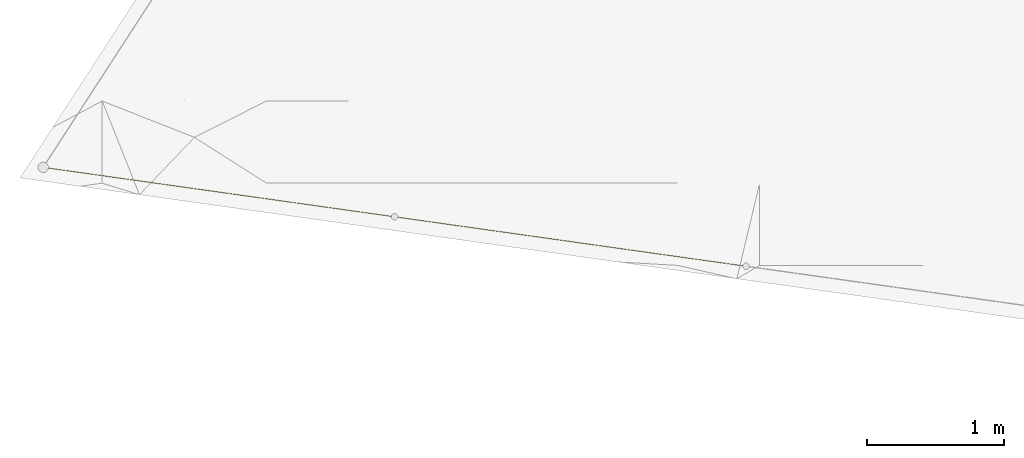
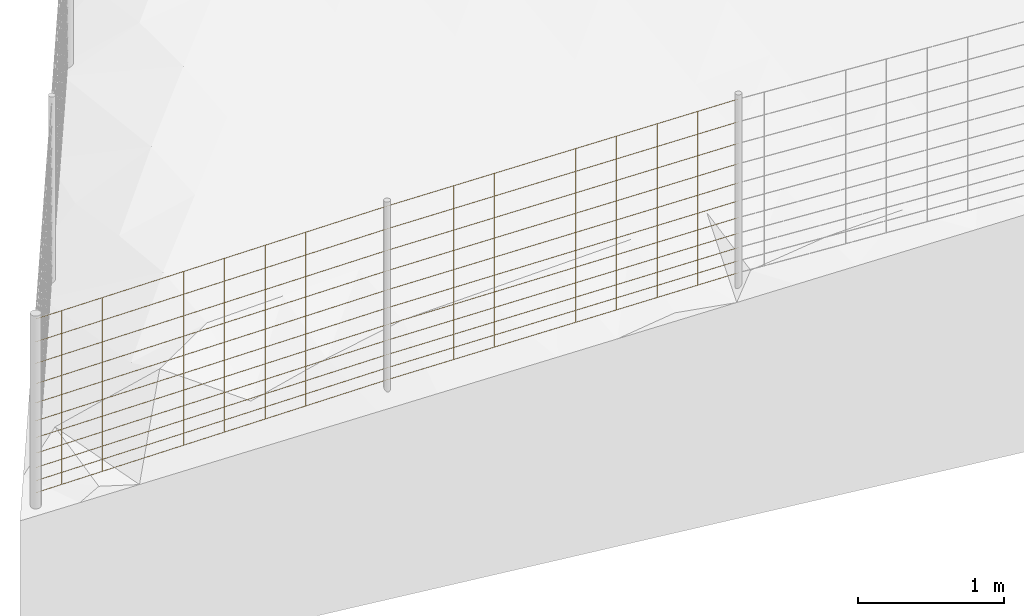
# Not in any storey, part 24 of 72: 2 railings.
"""IFC4 model written with IfcOpenShell, lengths in metres."""

import ifcopenshell
import ifcopenshell.guid

model = None  # the IFC model being written
_history = None  # IfcOwnerHistory: only IFC2X3 demands one
_inside = {}  # id of a spatial element -> (the spatial element, [elements in it])
_under = {}  # id of a project, library or spatial element -> (it, [spatial elements below it])
_declared = {}  # id of a project -> (the project, [libraries it declares])
_typed = {}  # id of a type object -> (the type object, [elements of that type])
_made_of = {}  # id of a material, layer set ... -> (it, [elements and type objects made of it])


def new_model(schema):
    """Start an empty IFC model of exactly this schema.

    Asked for "IFC4X3", IfcOpenShell would pick the latest addendum, in which some entities
    have other attributes; the version numbers below select the first issue.
    IFC2X3 requires an IfcOwnerHistory on every rooted entity: one is made here for all.
    """
    global model, _history
    if schema == "IFC4X3":
        model = ifcopenshell.file(schema_version=(4, 3, 0, 0))
    else:
        model = ifcopenshell.file(schema=schema)
    _inside.clear()
    _under.clear()
    _declared.clear()
    _typed.clear()
    _made_of.clear()
    _history = None
    if model.schema == "IFC2X3":
        org = make("IfcOrganization", Name="unknown")
        user = make(
            "IfcPersonAndOrganization",
            ThePerson=make("IfcPerson", FamilyName="unknown"),
            TheOrganization=org,
        )
        app = make(
            "IfcApplication",
            ApplicationDeveloper=org,
            Version="unknown",
            ApplicationFullName="unknown",
            ApplicationIdentifier="unknown",
        )
        _history = make(
            "IfcOwnerHistory",
            OwningUser=user,
            OwningApplication=app,
            ChangeAction="ADDED",
            CreationDate=0,
        )
    return model


def make(cls, **values):
    """One entity of the class cls with the attributes given. An attribute that is None is left unset."""
    return model.create_entity(
        cls, **{name: value for name, value in values.items() if value is not None}
    )


def rooted(cls, **values):
    """An entity with a GlobalId (a new one), such as an element, a storey or a relation."""
    return make(cls, GlobalId=ifcopenshell.guid.new(), OwnerHistory=_history, **values)


def si_unit(unit_type, name, prefix=None):
    """IfcSIUnit, for example si_unit("LENGTHUNIT", "METRE", prefix="MILLI")."""
    return make("IfcSIUnit", UnitType=unit_type, Prefix=prefix, Name=name)


def assignment(units):
    """IfcUnitAssignment: the units of a project."""
    return None if units is None else make("IfcUnitAssignment", Units=units)


def point(xyz):
    """IfcCartesianPoint."""
    return None if xyz is None else make("IfcCartesianPoint", Coordinates=xyz)


def direction(xyz):
    """IfcDirection."""
    return None if xyz is None else make("IfcDirection", DirectionRatios=xyz)


def frame(location, z_axis=None, x_axis=None):
    """IfcAxis2Placement3D, a coordinate frame: its origin and axes. An axis left out is left unset."""
    return make(
        "IfcAxis2Placement3D",
        Location=point(location),
        Axis=direction(z_axis),
        RefDirection=direction(x_axis),
    )


def origin_with_axes():
    """The frame at (0, 0, 0) with the z axis (0, 0, 1) and the x axis (1, 0, 0) written out."""
    return frame((0.0, 0.0, 0.0), z_axis=(0.0, 0.0, 1.0), x_axis=(1.0, 0.0, 0.0))


def place(relative_to, where):
    """IfcLocalPlacement: puts the frame where relative to a parent placement (None: the world)."""
    return make(
        "IfcLocalPlacement", PlacementRelTo=relative_to, RelativePlacement=where
    )


def context(
    kind, dimensions, precision=None, world=None, true_north=None, identifier=None
):
    """IfcGeometricRepresentationContext, for example the 3D "Model" context."""
    return make(
        "IfcGeometricRepresentationContext",
        ContextIdentifier=identifier,
        ContextType=kind,
        CoordinateSpaceDimension=dimensions,
        Precision=precision,
        WorldCoordinateSystem=world,
        TrueNorth=true_north,
    )


def subcontext(parent, identifier, kind, view, scale=None):
    """IfcGeometricRepresentationSubContext, for example "Body" below "Model"."""
    return make(
        "IfcGeometricRepresentationSubContext",
        ContextIdentifier=identifier,
        ContextType=kind,
        ParentContext=parent,
        TargetScale=scale,
        TargetView=view,
    )


def project(units=None, contexts=None):
    """IfcProject with its units and contexts."""
    return rooted(
        "IfcProject",
        Name="project",
        RepresentationContexts=contexts,
        UnitsInContext=assignment(units),
    )


def spatial(cls, under=None, at=None, **own):
    """A site, building, storey or space (cls), placed at a placement, below another one or the project."""
    s = rooted(cls, ObjectPlacement=at, **own)
    if under is not None:
        _under.setdefault(under.id(), (under, []))[1].append(s)
    return s


def point_list(points):
    """IfcCartesianPointList2D or 3D."""
    cls = (
        "IfcCartesianPointList2D" if len(points[0]) == 2 else "IfcCartesianPointList3D"
    )
    return make(cls, CoordList=points)


def polygons(points, faces, closed=None, point_numbers=None):
    """IfcPolygonalFaceSet: a face is its outer loop, then its inner loops; points numbered from 1."""
    made = []
    for loops in faces:
        if len(loops) == 1:
            made.append(make("IfcIndexedPolygonalFace", CoordIndex=loops[0]))
        else:
            made.append(
                make(
                    "IfcIndexedPolygonalFaceWithVoids",
                    CoordIndex=loops[0],
                    InnerCoordIndices=loops[1:],
                )
            )
    return make(
        "IfcPolygonalFaceSet",
        Coordinates=point_list(points),
        Closed=closed,
        Faces=made,
        PnIndex=point_numbers,
    )


def shape(context_of_items, identifier, shape_type, items):
    """IfcShapeRepresentation: the items that make up one representation, for example the "Body"."""
    return make(
        "IfcShapeRepresentation",
        ContextOfItems=context_of_items,
        RepresentationIdentifier=identifier,
        RepresentationType=shape_type,
        Items=items,
    )


def material(Name=None, Category=None):
    """IfcMaterial."""
    return make("IfcMaterial", Name=Name, Category=Category)


def made_of(thing, what):
    """Note that an element or type object is made of a material, layer set ...; save() writes the relation."""
    if what is not None:
        _made_of.setdefault(what.id(), (what, []))[1].append(thing)
    return thing


def element(
    cls,
    number,
    at=None,
    inside=None,
    cuts=None,
    type_object=None,
    material=None,
    context=None,
    identifier="Body",
    shape_type=None,
    held_by="IfcProductDefinitionShape",
    body=None,
    shapes=None,
    **own,
):
    """One element of the class cls, such as IfcWall. Its Tag is "e" and its number.

    at: its placement. inside: the storey or other place that contains it. cuts: it is an
    opening in that element (IfcRelVoidsElement). A single representation is given by context,
    identifier, shape_type and body (its items); several are given by shapes. held_by: the class
    of the entity that holds the representations. save() writes the other relations.
    """
    e = rooted(cls, Tag="e%d" % number, ObjectPlacement=at, **own)
    if body is not None:
        shapes = [shape(context, identifier, shape_type, body)]
    if shapes is not None:
        e.Representation = make(held_by, Representations=shapes)
    if inside is not None:
        _inside.setdefault(inside.id(), (inside, []))[1].append(e)
    if cuts is not None:
        rooted(
            "IfcRelVoidsElement", RelatingBuildingElement=cuts, RelatedOpeningElement=e
        )
    if type_object is not None:
        _typed.setdefault(type_object.id(), (type_object, []))[1].append(e)
    return made_of(e, material)


def aggregate(whole, parts):
    """IfcRelAggregates: a whole, such as a stair, and the parts it consists of."""
    return rooted("IfcRelAggregates", RelatingObject=whole, RelatedObjects=parts)


def save(model, path):
    """Write the relations noted so far, then the file.

    IfcRelAggregates (storeys below a building ...), IfcRelContainedInSpatialStructure (elements
    in a storey), IfcRelDefinesByType, IfcRelAssociatesMaterial and IfcRelDeclares: one each for
    every whole, place, type object, material and project.
    """
    for whole, parts in _under.values():
        aggregate(whole, parts)
    for where, things in _inside.values():
        rooted(
            "IfcRelContainedInSpatialStructure",
            RelatedElements=things,
            RelatingStructure=where,
        )
    for kind, things in _typed.values():
        rooted("IfcRelDefinesByType", RelatedObjects=things, RelatingType=kind)
    for what, things in _made_of.values():
        rooted("IfcRelAssociatesMaterial", RelatedObjects=things, RelatingMaterial=what)
    for by, libraries in _declared.values():
        rooted("IfcRelDeclares", RelatingContext=by, RelatedDefinitions=libraries)
    model.write(path)


model = new_model("IFC4")

# Units and contexts
model_context = context("Model", 3, precision=1e-05, world=origin_with_axes(), true_north=direction((0.0, 1.0)))
body_context = subcontext(model_context, "Body", "Model", "MODEL_VIEW")
ifc_project = project(units=[si_unit("AREAUNIT", "SQUARE_METRE"), si_unit("VOLUMEUNIT", "CUBIC_METRE"), si_unit("LENGTHUNIT", "METRE")], contexts=[model_context])

# Site
site_placement = place(None, origin_with_axes())
site = spatial("IfcSite", under=ifc_project, at=site_placement, Name="Lares · Rua das Mercês · artigo 4771")

# Railings
ifc_material = material(Name="Aço galvanizado / Stahl verzinkt", Category="steel")
railing_1_placement = place(site_placement, frame((0.0, 0.0, 0.0), z_axis=(0.0, 0.0, 1.0), x_axis=(1.0, -1.03767253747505e-17, 0.0)))
element("IfcRailing", 1, at=railing_1_placement, inside=site, material=ifc_material, Name="Vedação · rede ovelheira 1.039", ObjectType="SHEEP_WIRE_FENCE", PredefinedType="USERDEFINED", context=body_context, shape_type="Tessellation", body=[
    polygons([(-6.80593960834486, 4.23556345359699, 10.9744345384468), (-6.806026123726, 4.23406084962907, 10.972939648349), (-6.80635764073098, 4.23259272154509, 10.9744345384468), (-6.80627112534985, 4.23409532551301, 10.9759294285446), (-9.37135440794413, 4.59656082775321, 10.7600453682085), (-9.37144092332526, 4.59505822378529, 10.7585504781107), (-9.37177244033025, 4.59359009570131, 10.7600453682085), (-9.37168592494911, 4.59509269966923, 10.7615402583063), (-6.80593960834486, 4.23556345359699, 11.0744345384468), (-6.806026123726, 4.23406084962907, 11.072939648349), (-6.80635764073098, 4.23259272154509, 11.0744345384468), (-6.80627112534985, 4.23409532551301, 11.0759294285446), (-9.37135440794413, 4.59656082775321, 10.8600453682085), (-9.37144092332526, 4.59505822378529, 10.8585504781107), (-9.37177244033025, 4.59359009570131, 10.8600453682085), (-9.37168592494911, 4.59509269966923, 10.8615402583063), (-6.80593960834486, 4.23556345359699, 11.1844345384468), (-6.806026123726, 4.23406084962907, 11.182939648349), (-6.80635764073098, 4.23259272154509, 11.1844345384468), (-6.80627112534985, 4.23409532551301, 11.1859294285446), (-9.37135440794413, 4.59656082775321, 10.9700453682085), (-9.37144092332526, 4.59505822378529, 10.9685504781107), (-9.37177244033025, 4.59359009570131, 10.9700453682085), (-9.37168592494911, 4.59509269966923, 10.9715402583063), (-6.80593960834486, 4.23556345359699, 11.3044345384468), (-6.806026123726, 4.23406084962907, 11.302939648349), (-6.80635764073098, 4.23259272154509, 11.3044345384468), (-6.80627112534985, 4.23409532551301, 11.3059294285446), (-9.37135440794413, 4.59656082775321, 11.0900453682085), (-9.37144092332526, 4.59505822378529, 11.0885504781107), (-9.37177244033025, 4.59359009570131, 11.0900453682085), (-9.37168592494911, 4.59509269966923, 11.0915402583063), (-6.80593960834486, 4.23556345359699, 11.4344345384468), (-6.806026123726, 4.23406084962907, 11.432939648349), (-6.80635764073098, 4.23259272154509, 11.4344345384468), (-6.80627112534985, 4.23409532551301, 11.4359294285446), (-9.37135440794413, 4.59656082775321, 11.2200453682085), (-9.37144092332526, 4.59505822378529, 11.2185504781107), (-9.37177244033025, 4.59359009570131, 11.2200453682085), (-9.37168592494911, 4.59509269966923, 11.2215402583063), (-6.80593960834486, 4.23556345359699, 11.5744345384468), (-6.806026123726, 4.23406084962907, 11.572939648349), (-6.80635764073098, 4.23259272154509, 11.5744345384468), (-6.80627112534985, 4.23409532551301, 11.5759294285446), (-9.37135440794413, 4.59656082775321, 11.3600453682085), (-9.37144092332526, 4.59505822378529, 11.3585504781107), (-9.37177244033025, 4.59359009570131, 11.3600453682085), (-9.37168592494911, 4.59509269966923, 11.3615402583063), (-6.80593960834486, 4.23556345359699, 11.7244345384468), (-6.806026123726, 4.23406084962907, 11.722939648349), (-6.80635764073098, 4.23259272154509, 11.7244345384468), (-6.80627112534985, 4.23409532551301, 11.7259294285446), (-9.37135440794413, 4.59656082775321, 11.5100453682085), (-9.37144092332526, 4.59505822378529, 11.5085504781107), (-9.37177244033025, 4.59359009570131, 11.5100453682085), (-9.37168592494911, 4.59509269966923, 11.5115402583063), (-6.80593960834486, 4.23556345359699, 11.8844345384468), (-6.806026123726, 4.23406084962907, 11.882939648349), (-6.80635764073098, 4.23259272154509, 11.8844345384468), (-6.80627112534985, 4.23409532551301, 11.8859294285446), (-9.37135440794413, 4.59656082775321, 11.6700453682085), (-9.37144092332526, 4.59505822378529, 11.6685504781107), (-9.37177244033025, 4.59359009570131, 11.6700453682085), (-9.37168592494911, 4.59509269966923, 11.6715402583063), (-6.80593960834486, 4.23556345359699, 12.0544345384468), (-6.806026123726, 4.23406084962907, 12.052939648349), (-6.80635764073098, 4.23259272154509, 12.0544345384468), (-6.80627112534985, 4.23409532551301, 12.0559294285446), (-9.37135440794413, 4.59656082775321, 11.8400453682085), (-9.37144092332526, 4.59505822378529, 11.8385504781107), (-9.37177244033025, 4.59359009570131, 11.8400453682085), (-9.37168592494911, 4.59509269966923, 11.8415402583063), (-6.80593960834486, 4.23556345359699, 12.2344345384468), (-6.806026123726, 4.23406084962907, 12.232939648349), (-6.80635764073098, 4.23259272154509, 12.2344345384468), (-6.80627112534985, 4.23409532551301, 12.2359294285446), (-9.37135440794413, 4.59656082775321, 12.0200453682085), (-9.37144092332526, 4.59505822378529, 12.0185504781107), (-9.37177244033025, 4.59359009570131, 12.0200453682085), (-9.37168592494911, 4.59509269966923, 12.0215402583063), (-6.80593960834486, 4.23556345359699, 12.4244345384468), (-6.806026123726, 4.23406084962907, 12.422939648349), (-6.80635764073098, 4.23259272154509, 12.4244345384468), (-6.80627112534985, 4.23409532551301, 12.4259294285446), (-9.37135440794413, 4.59656082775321, 12.2100453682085), (-9.37144092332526, 4.59505822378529, 12.2085504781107), (-9.37177244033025, 4.59359009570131, 12.2100453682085), (-9.37168592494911, 4.59509269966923, 12.2115402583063), (-7.10322182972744, 4.27738132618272, 10.9496084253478), (-7.10472182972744, 4.27588132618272, 10.9496084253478), (-7.10322182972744, 4.27438132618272, 10.9496084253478), (-7.10172182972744, 4.27588132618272, 10.9496084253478), (-7.10322182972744, 4.27738132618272, 12.3996084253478), (-7.10472182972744, 4.27588132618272, 12.3996084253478), (-7.10322182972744, 4.27438132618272, 12.3996084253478), (-7.10172182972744, 4.27588132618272, 12.3996084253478), (-7.40029503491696, 4.3191845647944, 10.9247823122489), (-7.40179503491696, 4.3176845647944, 10.9247823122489), (-7.40029503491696, 4.3161845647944, 10.9247823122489), (-7.39879503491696, 4.3176845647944, 10.9247823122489), (-7.40029503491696, 4.3191845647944, 12.3747823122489), (-7.40179503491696, 4.3176845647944, 12.3747823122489), (-7.40029503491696, 4.3161845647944, 12.3747823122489), (-7.39879503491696, 4.3176845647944, 12.3747823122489), (-7.69736824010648, 4.36098780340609, 10.8999561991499), (-7.69886824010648, 4.35948780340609, 10.8999561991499), (-7.69736824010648, 4.35798780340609, 10.8999561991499), (-7.69586824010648, 4.35948780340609, 10.8999561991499), (-7.69736824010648, 4.36098780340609, 12.3499561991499), (-7.69886824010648, 4.35948780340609, 12.3499561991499), (-7.69736824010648, 4.35798780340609, 12.3499561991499), (-7.69586824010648, 4.35948780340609, 12.3499561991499), (-7.994441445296, 4.40279104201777, 10.8751300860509), (-7.995941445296, 4.40129104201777, 10.8751300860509), (-7.994441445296, 4.39979104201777, 10.8751300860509), (-7.992941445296, 4.40129104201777, 10.8751300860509), (-7.994441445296, 4.40279104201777, 12.3251300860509), (-7.995941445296, 4.40129104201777, 12.3251300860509), (-7.994441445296, 4.39979104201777, 12.3251300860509), (-7.992941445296, 4.40129104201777, 12.3251300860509), (-8.29151465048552, 4.44459428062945, 10.850303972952), (-8.29301465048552, 4.44309428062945, 10.850303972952), (-8.29151465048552, 4.44159428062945, 10.850303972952), (-8.29001465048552, 4.44309428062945, 10.850303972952), (-8.29151465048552, 4.44459428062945, 12.300303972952), (-8.29301465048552, 4.44309428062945, 12.300303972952), (-8.29151465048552, 4.44159428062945, 12.300303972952), (-8.29001465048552, 4.44309428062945, 12.300303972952), (-8.58858785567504, 4.48639751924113, 10.825477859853), (-8.59008785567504, 4.48489751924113, 10.825477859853), (-8.58858785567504, 4.48339751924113, 10.825477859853), (-8.58708785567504, 4.48489751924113, 10.825477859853), (-8.58858785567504, 4.48639751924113, 12.275477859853), (-8.59008785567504, 4.48489751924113, 12.275477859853), (-8.58858785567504, 4.48339751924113, 12.275477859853), (-8.58708785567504, 4.48489751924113, 12.275477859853), (-8.88566106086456, 4.52820075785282, 10.8006517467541), (-8.88716106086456, 4.52670075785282, 10.8006517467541), (-8.88566106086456, 4.52520075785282, 10.8006517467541), (-8.88416106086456, 4.52670075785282, 10.8006517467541), (-8.88566106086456, 4.52820075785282, 12.2506517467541), (-8.88716106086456, 4.52670075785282, 12.2506517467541), (-8.88566106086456, 4.52520075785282, 12.2506517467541), (-8.88416106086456, 4.52670075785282, 12.2506517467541), (-9.18273426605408, 4.5700039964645, 10.7758256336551), (-9.18423426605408, 4.5685039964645, 10.7758256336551), (-9.18273426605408, 4.5670039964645, 10.7758256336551), (-9.18123426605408, 4.5685039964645, 10.7758256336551), (-9.18273426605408, 4.5700039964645, 12.2258256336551), (-9.18423426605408, 4.5685039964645, 12.2258256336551), (-9.18273426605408, 4.5670039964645, 12.2258256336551), (-9.18123426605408, 4.5685039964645, 12.2258256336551)], [[[4, 3, 2, 1]], [[5, 6, 7, 8]], [[1, 2, 6, 5]], [[2, 3, 7, 6]], [[3, 4, 8, 7]], [[4, 1, 5, 8]], [[12, 11, 10, 9]], [[13, 14, 15, 16]], [[9, 10, 14, 13]], [[10, 11, 15, 14]], [[11, 12, 16, 15]], [[12, 9, 13, 16]], [[20, 19, 18, 17]], [[21, 22, 23, 24]], [[17, 18, 22, 21]], [[18, 19, 23, 22]], [[19, 20, 24, 23]], [[20, 17, 21, 24]], [[28, 27, 26, 25]], [[29, 30, 31, 32]], [[25, 26, 30, 29]], [[26, 27, 31, 30]], [[27, 28, 32, 31]], [[28, 25, 29, 32]], [[36, 35, 34, 33]], [[37, 38, 39, 40]], [[33, 34, 38, 37]], [[34, 35, 39, 38]], [[35, 36, 40, 39]], [[36, 33, 37, 40]], [[44, 43, 42, 41]], [[45, 46, 47, 48]], [[41, 42, 46, 45]], [[42, 43, 47, 46]], [[43, 44, 48, 47]], [[44, 41, 45, 48]], [[52, 51, 50, 49]], [[53, 54, 55, 56]], [[49, 50, 54, 53]], [[50, 51, 55, 54]], [[51, 52, 56, 55]], [[52, 49, 53, 56]], [[60, 59, 58, 57]], [[61, 62, 63, 64]], [[57, 58, 62, 61]], [[58, 59, 63, 62]], [[59, 60, 64, 63]], [[60, 57, 61, 64]], [[68, 67, 66, 65]], [[69, 70, 71, 72]], [[65, 66, 70, 69]], [[66, 67, 71, 70]], [[67, 68, 72, 71]], [[68, 65, 69, 72]], [[76, 75, 74, 73]], [[77, 78, 79, 80]], [[73, 74, 78, 77]], [[74, 75, 79, 78]], [[75, 76, 80, 79]], [[76, 73, 77, 80]], [[84, 83, 82, 81]], [[85, 86, 87, 88]], [[81, 82, 86, 85]], [[82, 83, 87, 86]], [[83, 84, 88, 87]], [[84, 81, 85, 88]], [[92, 91, 90, 89]], [[93, 94, 95, 96]], [[89, 90, 94, 93]], [[90, 91, 95, 94]], [[91, 92, 96, 95]], [[92, 89, 93, 96]], [[100, 99, 98, 97]], [[101, 102, 103, 104]], [[97, 98, 102, 101]], [[98, 99, 103, 102]], [[99, 100, 104, 103]], [[100, 97, 101, 104]], [[108, 107, 106, 105]], [[109, 110, 111, 112]], [[105, 106, 110, 109]], [[106, 107, 111, 110]], [[107, 108, 112, 111]], [[108, 105, 109, 112]], [[116, 115, 114, 113]], [[117, 118, 119, 120]], [[113, 114, 118, 117]], [[114, 115, 119, 118]], [[115, 116, 120, 119]], [[116, 113, 117, 120]], [[124, 123, 122, 121]], [[125, 126, 127, 128]], [[121, 122, 126, 125]], [[122, 123, 127, 126]], [[123, 124, 128, 127]], [[124, 121, 125, 128]], [[132, 131, 130, 129]], [[133, 134, 135, 136]], [[129, 130, 134, 133]], [[130, 131, 135, 134]], [[131, 132, 136, 135]], [[132, 129, 133, 136]], [[140, 139, 138, 137]], [[141, 142, 143, 144]], [[137, 138, 142, 141]], [[138, 139, 143, 142]], [[139, 140, 144, 143]], [[140, 137, 141, 144]], [[148, 147, 146, 145]], [[149, 150, 151, 152]], [[145, 146, 150, 149]], [[146, 147, 151, 150]], [[147, 148, 152, 151]], [[148, 145, 149, 152]]]),
])
railing_2_placement = place(site_placement, frame((0.0, 0.0, 0.0), z_axis=(0.0, 0.0, 1.0), x_axis=(1.0, -1.03767253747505e-17, 0.0)))
element("IfcRailing", 2, at=railing_2_placement, inside=site, material=ifc_material, Name="Vedação · rede ovelheira 1.040", ObjectType="SHEEP_WIRE_FENCE", PredefinedType="USERDEFINED", context=body_context, shape_type="Tessellation", body=[
    polygons([(-9.37135440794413, 4.59656082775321, 10.7600453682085), (-9.37141313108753, 4.59505431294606, 10.7585530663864), (-9.37177244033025, 4.59359009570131, 10.7600453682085), (-9.37171371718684, 4.59509661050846, 10.7615376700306), (-11.9367692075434, 4.95755820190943, 10.4965606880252), (-11.9368279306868, 4.95605168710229, 10.4950683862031), (-11.9371872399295, 4.95458746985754, 10.4965606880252), (-11.9371285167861, 4.95609398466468, 10.4980529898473), (-9.37135440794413, 4.59656082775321, 10.8600453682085), (-9.37141313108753, 4.59505431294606, 10.8585530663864), (-9.37177244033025, 4.59359009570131, 10.8600453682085), (-9.37171371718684, 4.59509661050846, 10.8615376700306), (-11.9367692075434, 4.95755820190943, 10.5965606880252), (-11.9368279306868, 4.95605168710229, 10.5950683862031), (-11.9371872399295, 4.95458746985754, 10.5965606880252), (-11.9371285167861, 4.95609398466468, 10.5980529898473), (-9.37135440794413, 4.59656082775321, 10.9700453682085), (-9.37141313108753, 4.59505431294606, 10.9685530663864), (-9.37177244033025, 4.59359009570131, 10.9700453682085), (-9.37171371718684, 4.59509661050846, 10.9715376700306), (-11.9367692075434, 4.95755820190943, 10.7065606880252), (-11.9368279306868, 4.95605168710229, 10.7050683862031), (-11.9371872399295, 4.95458746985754, 10.7065606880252), (-11.9371285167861, 4.95609398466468, 10.7080529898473), (-9.37135440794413, 4.59656082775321, 11.0900453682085), (-9.37141313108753, 4.59505431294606, 11.0885530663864), (-9.37177244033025, 4.59359009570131, 11.0900453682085), (-9.37171371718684, 4.59509661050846, 11.0915376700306), (-11.9367692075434, 4.95755820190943, 10.8265606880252), (-11.9368279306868, 4.95605168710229, 10.8250683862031), (-11.9371872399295, 4.95458746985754, 10.8265606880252), (-11.9371285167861, 4.95609398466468, 10.8280529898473), (-9.37135440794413, 4.59656082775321, 11.2200453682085), (-9.37141313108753, 4.59505431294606, 11.2185530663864), (-9.37177244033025, 4.59359009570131, 11.2200453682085), (-9.37171371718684, 4.59509661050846, 11.2215376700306), (-11.9367692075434, 4.95755820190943, 10.9565606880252), (-11.9368279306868, 4.95605168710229, 10.9550683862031), (-11.9371872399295, 4.95458746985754, 10.9565606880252), (-11.9371285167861, 4.95609398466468, 10.9580529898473), (-9.37135440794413, 4.59656082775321, 11.3600453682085), (-9.37141313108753, 4.59505431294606, 11.3585530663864), (-9.37177244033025, 4.59359009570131, 11.3600453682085), (-9.37171371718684, 4.59509661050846, 11.3615376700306), (-11.9367692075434, 4.95755820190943, 11.0965606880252), (-11.9368279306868, 4.95605168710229, 11.0950683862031), (-11.9371872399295, 4.95458746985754, 11.0965606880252), (-11.9371285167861, 4.95609398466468, 11.0980529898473), (-9.37135440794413, 4.59656082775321, 11.5100453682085), (-9.37141313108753, 4.59505431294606, 11.5085530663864), (-9.37177244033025, 4.59359009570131, 11.5100453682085), (-9.37171371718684, 4.59509661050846, 11.5115376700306), (-11.9367692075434, 4.95755820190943, 11.2465606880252), (-11.9368279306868, 4.95605168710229, 11.2450683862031), (-11.9371872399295, 4.95458746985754, 11.2465606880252), (-11.9371285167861, 4.95609398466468, 11.2480529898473), (-9.37135440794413, 4.59656082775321, 11.6700453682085), (-9.37141313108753, 4.59505431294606, 11.6685530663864), (-9.37177244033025, 4.59359009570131, 11.6700453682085), (-9.37171371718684, 4.59509661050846, 11.6715376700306), (-11.9367692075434, 4.95755820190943, 11.4065606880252), (-11.9368279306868, 4.95605168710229, 11.4050683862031), (-11.9371872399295, 4.95458746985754, 11.4065606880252), (-11.9371285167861, 4.95609398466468, 11.4080529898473), (-9.37135440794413, 4.59656082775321, 11.8400453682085), (-9.37141313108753, 4.59505431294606, 11.8385530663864), (-9.37177244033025, 4.59359009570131, 11.8400453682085), (-9.37171371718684, 4.59509661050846, 11.8415376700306), (-11.9367692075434, 4.95755820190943, 11.5765606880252), (-11.9368279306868, 4.95605168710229, 11.5750683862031), (-11.9371872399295, 4.95458746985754, 11.5765606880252), (-11.9371285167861, 4.95609398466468, 11.5780529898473), (-9.37135440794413, 4.59656082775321, 12.0200453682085), (-9.37141313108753, 4.59505431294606, 12.0185530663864), (-9.37177244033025, 4.59359009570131, 12.0200453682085), (-9.37171371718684, 4.59509661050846, 12.0215376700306), (-11.9367692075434, 4.95755820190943, 11.7565606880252), (-11.9368279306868, 4.95605168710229, 11.7550683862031), (-11.9371872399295, 4.95458746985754, 11.7565606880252), (-11.9371285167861, 4.95609398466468, 11.7580529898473), (-9.37135440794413, 4.59656082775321, 12.2100453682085), (-9.37141313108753, 4.59505431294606, 12.2085530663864), (-9.37177244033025, 4.59359009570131, 12.2100453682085), (-9.37171371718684, 4.59509661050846, 12.2115376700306), (-11.9367692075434, 4.95755820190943, 11.9465606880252), (-11.9368279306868, 4.95605168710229, 11.9450683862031), (-11.9371872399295, 4.95458746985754, 11.9465606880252), (-11.9371285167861, 4.95609398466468, 11.9480529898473), (-9.66863662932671, 4.63837870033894, 10.7295340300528), (-9.67013662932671, 4.63687870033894, 10.7295340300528), (-9.66863662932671, 4.63537870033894, 10.7295340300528), (-9.66713662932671, 4.63687870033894, 10.7295340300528), (-9.66863662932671, 4.63837870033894, 12.1795340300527), (-9.67013662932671, 4.63687870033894, 12.1795340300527), (-9.66863662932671, 4.63537870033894, 12.1795340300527), (-9.66713662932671, 4.63687870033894, 12.1795340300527), (-9.96570983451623, 4.68018193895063, 10.699022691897), (-9.96720983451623, 4.67868193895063, 10.699022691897), (-9.96570983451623, 4.67718193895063, 10.699022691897), (-9.96420983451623, 4.67868193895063, 10.699022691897), (-9.96570983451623, 4.68018193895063, 12.149022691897), (-9.96720983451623, 4.67868193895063, 12.149022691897), (-9.96570983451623, 4.67718193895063, 12.149022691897), (-9.96420983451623, 4.67868193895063, 12.149022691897), (-10.2627830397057, 4.72198517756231, 10.6685113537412), (-10.2642830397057, 4.72048517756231, 10.6685113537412), (-10.2627830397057, 4.71898517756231, 10.6685113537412), (-10.2612830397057, 4.72048517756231, 10.6685113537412), (-10.2627830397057, 4.72198517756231, 12.1185113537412), (-10.2642830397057, 4.72048517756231, 12.1185113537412), (-10.2627830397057, 4.71898517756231, 12.1185113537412), (-10.2612830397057, 4.72048517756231, 12.1185113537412), (-10.5598562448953, 4.76378841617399, 10.6380000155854), (-10.5613562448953, 4.76228841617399, 10.6380000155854), (-10.5598562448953, 4.76078841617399, 10.6380000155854), (-10.5583562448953, 4.76228841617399, 10.6380000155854), (-10.5598562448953, 4.76378841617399, 12.0880000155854), (-10.5613562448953, 4.76228841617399, 12.0880000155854), (-10.5598562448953, 4.76078841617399, 12.0880000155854), (-10.5583562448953, 4.76228841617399, 12.0880000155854), (-10.8569294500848, 4.80559165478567, 10.6074886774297), (-10.8584294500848, 4.80409165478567, 10.6074886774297), (-10.8569294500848, 4.80259165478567, 10.6074886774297), (-10.8554294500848, 4.80409165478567, 10.6074886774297), (-10.8569294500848, 4.80559165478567, 12.0574886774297), (-10.8584294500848, 4.80409165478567, 12.0574886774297), (-10.8569294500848, 4.80259165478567, 12.0574886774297), (-10.8554294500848, 4.80409165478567, 12.0574886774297), (-11.1540026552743, 4.84739489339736, 10.5769773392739), (-11.1555026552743, 4.84589489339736, 10.5769773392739), (-11.1540026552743, 4.84439489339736, 10.5769773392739), (-11.1525026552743, 4.84589489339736, 10.5769773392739), (-11.1540026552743, 4.84739489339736, 12.0269773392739), (-11.1555026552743, 4.84589489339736, 12.0269773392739), (-11.1540026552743, 4.84439489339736, 12.0269773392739), (-11.1525026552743, 4.84589489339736, 12.0269773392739), (-11.4510758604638, 4.88919813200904, 10.5464660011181), (-11.4525758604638, 4.88769813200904, 10.5464660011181), (-11.4510758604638, 4.88619813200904, 10.5464660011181), (-11.4495758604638, 4.88769813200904, 10.5464660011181), (-11.4510758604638, 4.88919813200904, 11.9964660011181), (-11.4525758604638, 4.88769813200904, 11.9964660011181), (-11.4510758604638, 4.88619813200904, 11.9964660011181), (-11.4495758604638, 4.88769813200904, 11.9964660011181), (-11.7481490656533, 4.93100137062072, 10.5159546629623), (-11.7496490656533, 4.92950137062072, 10.5159546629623), (-11.7481490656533, 4.92800137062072, 10.5159546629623), (-11.7466490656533, 4.92950137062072, 10.5159546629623), (-11.7481490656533, 4.93100137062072, 11.9659546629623), (-11.7496490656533, 4.92950137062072, 11.9659546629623), (-11.7481490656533, 4.92800137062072, 11.9659546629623), (-11.7466490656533, 4.92950137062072, 11.9659546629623)], [[[4, 3, 2, 1]], [[5, 6, 7, 8]], [[1, 2, 6, 5]], [[2, 3, 7, 6]], [[3, 4, 8, 7]], [[4, 1, 5, 8]], [[12, 11, 10, 9]], [[13, 14, 15, 16]], [[9, 10, 14, 13]], [[10, 11, 15, 14]], [[11, 12, 16, 15]], [[12, 9, 13, 16]], [[20, 19, 18, 17]], [[21, 22, 23, 24]], [[17, 18, 22, 21]], [[18, 19, 23, 22]], [[19, 20, 24, 23]], [[20, 17, 21, 24]], [[28, 27, 26, 25]], [[29, 30, 31, 32]], [[25, 26, 30, 29]], [[26, 27, 31, 30]], [[27, 28, 32, 31]], [[28, 25, 29, 32]], [[36, 35, 34, 33]], [[37, 38, 39, 40]], [[33, 34, 38, 37]], [[34, 35, 39, 38]], [[35, 36, 40, 39]], [[36, 33, 37, 40]], [[44, 43, 42, 41]], [[45, 46, 47, 48]], [[41, 42, 46, 45]], [[42, 43, 47, 46]], [[43, 44, 48, 47]], [[44, 41, 45, 48]], [[52, 51, 50, 49]], [[53, 54, 55, 56]], [[49, 50, 54, 53]], [[50, 51, 55, 54]], [[51, 52, 56, 55]], [[52, 49, 53, 56]], [[60, 59, 58, 57]], [[61, 62, 63, 64]], [[57, 58, 62, 61]], [[58, 59, 63, 62]], [[59, 60, 64, 63]], [[60, 57, 61, 64]], [[68, 67, 66, 65]], [[69, 70, 71, 72]], [[65, 66, 70, 69]], [[66, 67, 71, 70]], [[67, 68, 72, 71]], [[68, 65, 69, 72]], [[76, 75, 74, 73]], [[77, 78, 79, 80]], [[73, 74, 78, 77]], [[74, 75, 79, 78]], [[75, 76, 80, 79]], [[76, 73, 77, 80]], [[84, 83, 82, 81]], [[85, 86, 87, 88]], [[81, 82, 86, 85]], [[82, 83, 87, 86]], [[83, 84, 88, 87]], [[84, 81, 85, 88]], [[92, 91, 90, 89]], [[93, 94, 95, 96]], [[89, 90, 94, 93]], [[90, 91, 95, 94]], [[91, 92, 96, 95]], [[92, 89, 93, 96]], [[100, 99, 98, 97]], [[101, 102, 103, 104]], [[97, 98, 102, 101]], [[98, 99, 103, 102]], [[99, 100, 104, 103]], [[100, 97, 101, 104]], [[108, 107, 106, 105]], [[109, 110, 111, 112]], [[105, 106, 110, 109]], [[106, 107, 111, 110]], [[107, 108, 112, 111]], [[108, 105, 109, 112]], [[116, 115, 114, 113]], [[117, 118, 119, 120]], [[113, 114, 118, 117]], [[114, 115, 119, 118]], [[115, 116, 120, 119]], [[116, 113, 117, 120]], [[124, 123, 122, 121]], [[125, 126, 127, 128]], [[121, 122, 126, 125]], [[122, 123, 127, 126]], [[123, 124, 128, 127]], [[124, 121, 125, 128]], [[132, 131, 130, 129]], [[133, 134, 135, 136]], [[129, 130, 134, 133]], [[130, 131, 135, 134]], [[131, 132, 136, 135]], [[132, 129, 133, 136]], [[140, 139, 138, 137]], [[141, 142, 143, 144]], [[137, 138, 142, 141]], [[138, 139, 143, 142]], [[139, 140, 144, 143]], [[140, 137, 141, 144]], [[148, 147, 146, 145]], [[149, 150, 151, 152]], [[145, 146, 150, 149]], [[146, 147, 151, 150]], [[147, 148, 152, 151]], [[148, 145, 149, 152]]]),
])

save(model, "model.ifc")
